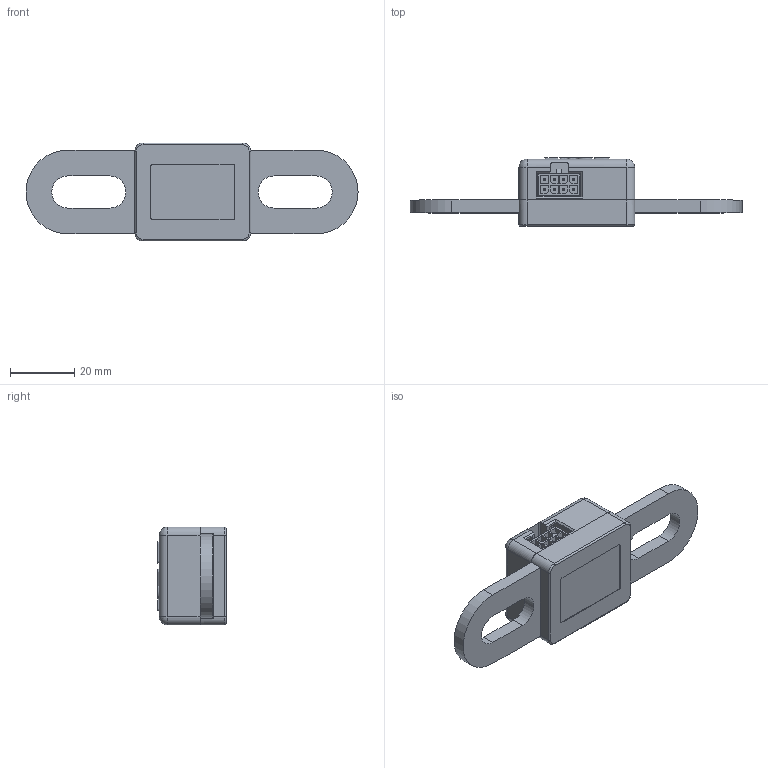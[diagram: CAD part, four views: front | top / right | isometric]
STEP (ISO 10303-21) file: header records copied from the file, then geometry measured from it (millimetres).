
FILE_DESCRIPTION(/* description */ (''),/* implementation_level */ '2;1');
FILE_NAME(/* name */ 'C:/Users/Justinas/Desktop/CS012A.step',/* time_stamp */ '2021-05-14T09:58:35+03:00',/* author */ (''),/* organization */ (''),/* preprocessor_version */ 'ST-DEVELOPER v18.1',/* originating_system */ 'Autodesk Translation Framework v10.6.0.1341',/* authorisation */ '');
FILE_SCHEMA (('AUTOMOTIVE_DESIGN { 1 0 10303 214 3 1 1 }'));
Length unit declared in the file: millimetre
Products named in the file (1): CS012A_for_clients
Bounding box: 103 x 21.2 x 30.4 mm (x, y, z)
Volume: 19777.3 mm3; surface area: 20772.1 mm2
Topology: 6 solids, 10 shells, 1090 faces, 2992 edges, 1958 vertices
Faces by surface type: plane 902, bspline 107, cylinder 67, torus 6, sphere 4, cone 4
Full cylindrical faces by diameter (mm): 3.8 x3, 5 x1
Entity records: 34814 total; most frequent: CARTESIAN_POINT 7526, ORIENTED_EDGE 5984, DIRECTION 5070, EDGE_CURVE 2992, LINE 2596, VECTOR 2596, VERTEX_POINT 1958, AXIS2_PLACEMENT_3D 1237
